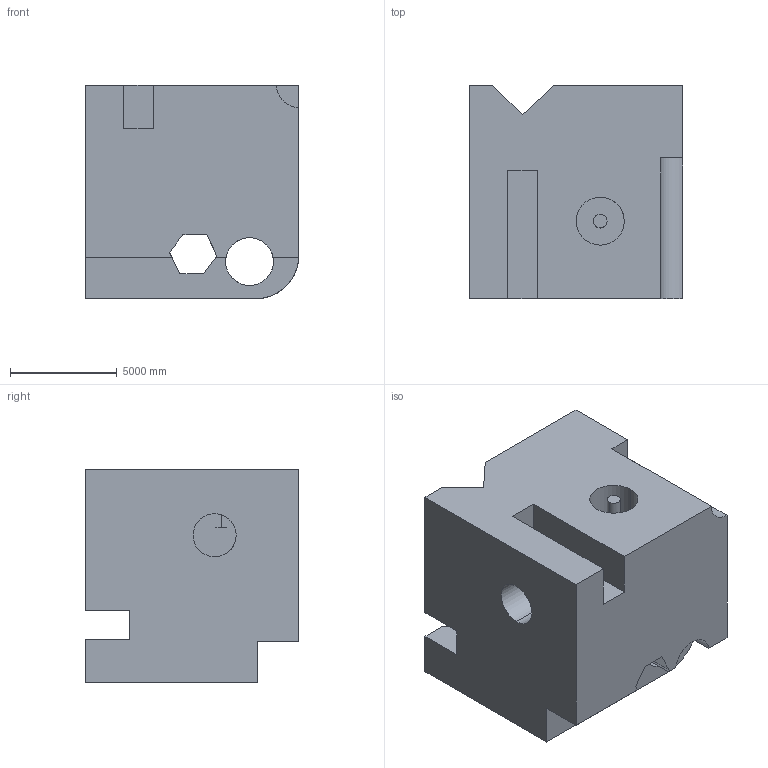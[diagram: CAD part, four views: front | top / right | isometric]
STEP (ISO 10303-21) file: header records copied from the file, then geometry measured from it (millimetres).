
FILE_DESCRIPTION (( 'STEP AP203' ), '1' );
FILE_NAME ('1972.STEP', '2022-08-23T10:07:39', ( 'user' ), ( '' ), 'SwSTEP 2.0', 'SolidWorks 2021', '' );
FILE_SCHEMA (( 'CONFIG_CONTROL_DESIGN' ));
Length unit declared in the file: centimetre
Products named in the file (1): 1972
Bounding box: 10000 x 10000 x 10000 mm (x, y, z)
Volume: 804137596636.9 mm3; surface area: 777581765.5 mm2
Topology: 1 solids, 1 shells, 46 faces, 141 edges, 94 vertices
Faces by surface type: plane 36, cylinder 10
Entity records: 1663 total; most frequent: CARTESIAN_POINT 288, ORIENTED_EDGE 282, DIRECTION 260, EDGE_CURVE 141, VECTOR 112, LINE 112, VERTEX_POINT 94, AXIS2_PLACEMENT_3D 74
